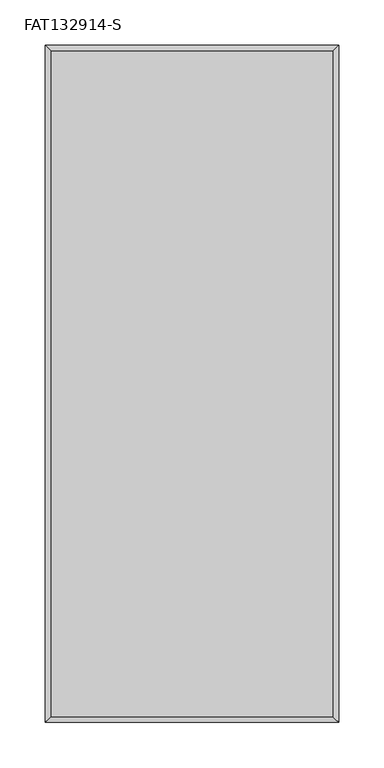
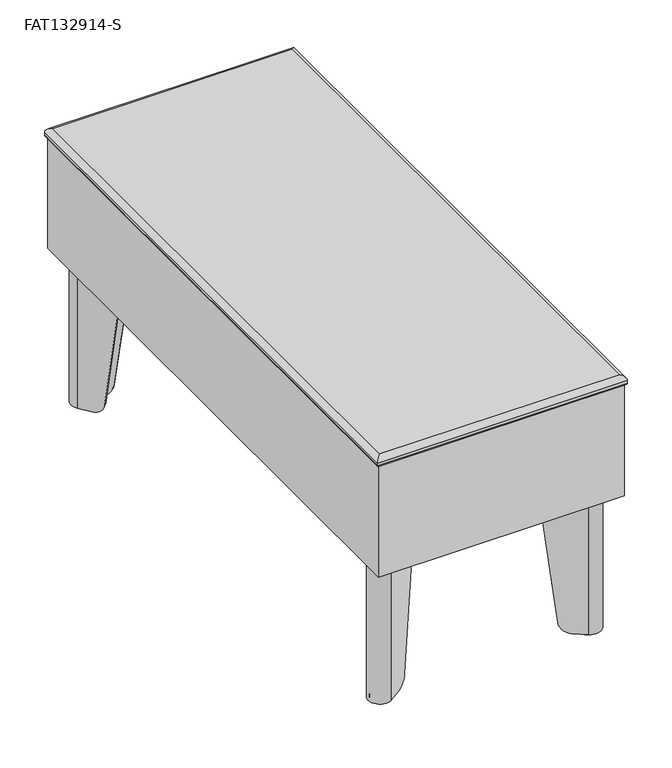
"""IFC4 building model written with IfcOpenShell, lengths in millimetres: furniture geometry, Stance_HC-Flora-Table_Straight : FAT132914-S."""

from ifc_helpers import new_model, si_unit, point, frame, frame_2d, origin, origin_with_axes, place, context, project, spatial, polyline, circle_curve, ellipse_curve, trimmed, segment, composite_curve, outline, extrude, source, transform, mapped, element, save
from ifc_brep_helpers import plane_surface, cylinder_surface, revolved_surface, advanced_brep


def fat132914_s_00388e72(model_context):
    return source(origin(), model_context, "Body", "SolidModel", [
        extrude(outline(composite_curve([segment(polyline([(274.1779251, -48.593371), (287.4828248, -39.2771437)]), True, "CONTINUOUS"), segment(trimmed(circle_curve(frame_2d((294.1333442, -48.7750329)), 11.5947965), [point((287.4828248, -39.2771437))], [point((303.6312333, -55.4255523))], False, "CARTESIAN"), True, "CONTINUOUS"), segment(polyline([(303.6312333, -55.4255523), (294.315006, -68.730452), (274.1779251, -48.593371)]), True, "CONTINUOUS")], self_intersect=False)), frame((0.0, 0.0, 3.175), z_axis=(0.0, 0.0, 1.0), x_axis=(1.0, 0.0, 0.0)), (0.0, 0.0, 1.0), 3.3792927),
        advanced_brep(
        [(274.3401042, -102.8613619, 193.6877233), (306.2642107, -57.26919, 193.6877233), (285.6391871, -36.6441664, 193.6877233), (240.0470178, -68.568271, 193.6877233), (241.8906556, -71.2012484, 193.6877233), (287.4828248, -39.2771437, 193.6877233), (303.6312333, -55.4255523, 193.6877233), (271.7071268, -101.0177242, 193.6877233), (274.3401042, -102.8613619, 189.1419595), (303.6312333, -55.4255523, 3.1876992), (293.5105238, -69.8793673, 3.1876992), (284.3334277, -82.9855678, 17.1280233), (287.4828248, -39.2771437, 3.1876992), (259.9228092, -58.5749494, 17.1280233), (273.0290098, -49.3978533, 3.1876992), (240.0470178, -68.568271, 189.1419334), (285.6391871, -36.6441664, 3.1876992), (270.7211121, -47.0899556, 3.1876992), (257.6149115, -56.2670517, 17.1280233), (306.2642107, -57.26919, 3.1876992), (286.6413254, -85.2934656, 17.1280233), (295.8184215, -72.187265, 3.1876992)],
        [
            (0, 1),
            (1, 2, circle_curve(frame((294.1333442, -48.7750329, 193.6877233), z_axis=(0.0, 0.0, 1.0), x_axis=(-1.0, 0.0, 0.0)), 14.8090724)),
            (2, 3),
            (3, 4),
            (4, 5),
            (5, 6, circle_curve(frame((294.1333442, -48.7750329, 193.6877233), z_axis=(0.0, 0.0, -1.0), x_axis=(-1.0, 0.0, 0.0)), 11.5947965)),
            (6, 7),
            (7, 0),
            (7, 8),
            (8, 0),
            (6, 9),
            (9, 10),
            (10, 11, ellipse_curve(frame((293.5105238, -69.8793673, 19.0626992), z_axis=(-0.8191509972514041, 0.5735779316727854, 0.0), x_axis=(-0.5735779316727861, -0.8191509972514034, 0.0)), 16.1198923, 15.875)),
            (11, 7),
            (5, 12),
            (12, 9, circle_curve(frame((294.1333442, -48.7750329, 3.1876992), z_axis=(0.0, 0.0, -1.0), x_axis=(-1.0, 0.0, 0.0)), 11.5947965)),
            (4, 13),
            (13, 14, ellipse_curve(frame((273.0290098, -49.3978533, 19.0626992), z_axis=(0.5735779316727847, -0.8191509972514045, 0.0), x_axis=(0.8191509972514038, 0.5735779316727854, 0.0)), 16.1198923, 15.875)),
            (14, 12),
            (3, 15),
            (15, 4),
            (2, 16),
            (16, 17),
            (17, 18, ellipse_curve(frame((270.7211121, -47.0899556, 19.0626992), z_axis=(-0.5735779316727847, 0.8191509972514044, 0.0), x_axis=(0.8191509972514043, 0.573577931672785, 0.0)), 16.1198923, 15.875)),
            (18, 15),
            (1, 19),
            (19, 16, circle_curve(frame((294.1333442, -48.7750329, 3.1876992), z_axis=(0.0, 0.0, 1.0), x_axis=(-1.0, 0.0, 0.0)), 14.8090724)),
            (8, 20),
            (20, 21, ellipse_curve(frame((295.8184215, -72.187265, 19.0626992), z_axis=(0.8191509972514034, -0.5735779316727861, 0.0), x_axis=(-0.5735779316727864, -0.8191509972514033, 0.0)), 16.1198923, 15.875)),
            (21, 19),
            (18, 13),
            (11, 20),
            (21, 10),
            (14, 17),
        ],
        [
            plane_surface(frame((271.7071268, -101.0177242, 193.6877233), z_axis=(0.0, 0.0, 1.0000000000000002), x_axis=(-0.8191509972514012, 0.5735779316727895, 0.0))),
            plane_surface(frame((274.3401042, -102.8613619, 193.6877233), z_axis=(-0.5735779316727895, -0.8191509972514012, 0.0), x_axis=(0.0, 0.0, -1.0))),
            plane_surface(frame((271.7071268, -101.0177242, 193.6877233), z_axis=(-0.8191509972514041, 0.5735779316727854, 0.0), x_axis=(0.0, 0.0, -1.0))),
            revolved_surface(polyline([(282.53854770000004, -48.7750329, 3.1876992), (282.53854770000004, -48.7750329, 193.6877233)]), (294.1333442, -48.7750329, 0.0), (0.0, 0.0, -1.0)),
            plane_surface(frame((287.4828248, -39.2771437, 193.6877233), z_axis=(0.5735779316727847, -0.8191509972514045, 0.0), x_axis=(0.0, 0.0, -1.0))),
            plane_surface(frame((241.8906556, -71.2012484, 193.6877233), z_axis=(-0.8191509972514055, -0.5735779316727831, 0.0), x_axis=(0.0, 0.0, -1.0))),
            plane_surface(frame((240.0470178, -68.568271, 193.6877233), z_axis=(-0.5735779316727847, 0.8191509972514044, 0.0), x_axis=(0.0, 0.0, -1.0))),
            cylinder_surface(frame((294.1333442, -48.7750329, 0.0), z_axis=(0.0, 0.0, 1.0), x_axis=(-1.0, 0.0, 0.0)), 14.8090724),
            plane_surface(frame((306.2642107, -57.26919, 193.6877233), z_axis=(0.8191509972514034, -0.5735779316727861, 0.0), x_axis=(0.0, 0.0, -1.0))),
            plane_surface(frame((251.7311084, -50.3832485, 17.1280233), z_axis=(-0.7018361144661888, -0.7018361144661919, -0.12186934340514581), x_axis=(0.7071067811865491, -0.707106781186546, 0.0))),
            plane_surface(frame((284.2214639, -17.8928931, 3.1876992), z_axis=(0.0, 0.0, -1.0), x_axis=(0.707106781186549, -0.707106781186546, 0.0))),
            cylinder_surface(frame((303.6583998, -80.0272433, 19.0626992), z_axis=(0.7071067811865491, -0.707106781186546, 0.0), x_axis=(-0.707106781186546, -0.7071067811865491, 0.0)), 15.875),
        ],
        [
            (0, [[1, 2, 3, 4, 5, 6, 7, 8]]),
            (1, [[9, 10, -8]]),
            (2, [[11, 12, 13, 14, -7]]),
            (3, [[15, 16, -11, -6]]),
            (4, [[17, 18, 19, -15, -5]]),
            (5, [[20, 21, -4]]),
            (6, [[22, 23, 24, 25, -20, -3]]),
            (7, [[26, 27, -22, -2]]),
            (8, [[-10, 28, 29, 30, -26, -1]]),
            (9, [[-17, -21, -25, 31]]),
            (9, [[-28, -9, -14, 32]]),
            (10, [[-23, -27, -30, 33, -12, -16, -19, 34]]),
            (11, [[-13, -33, -29, -32]]),
            (11, [[-24, -34, -18, -31]]),
        ],
    ),
        extrude(outline(composite_curve([segment(trimmed(circle_curve(frame_2d((292.1, -50.8)), 11.1125), [point((303.2125, -50.8))], [point((280.9875, -50.8))], False, "CARTESIAN"), True, "CONTINUOUS"), segment(trimmed(circle_curve(frame_2d((292.1, -50.8)), 11.1125), [point((280.9875, -50.8))], [point((303.2125, -50.8))], False, "CARTESIAN"), True, "CONTINUOUS")], self_intersect=False)), origin_with_axes(), (0.0, 0.0, 1.0), 3.175),
        extrude(outline(composite_curve([segment(trimmed(circle_curve(frame_2d((295.4524523, -47.4559239)), 15.8749964), [point((294.3450687, -31.6195983))], [point((311.288778, -48.5633073))], False, "CARTESIAN"), True, "CONTINUOUS"), segment(polyline([(311.288778, -48.5633073), (304.2918062, -148.6247029), (274.4414324, -178.4750713), (190.4983323, -152.4100523), (164.4332978, -68.4669439), (194.2836699, -38.6165718), (294.3450687, -31.6195983)]), True, "CONTINUOUS")], self_intersect=False)), frame((0.0, 0.0, 193.6877233), z_axis=(0.0, 0.0, 1.0), x_axis=(1.0, 0.0, 0.0)), (0.0, 0.0, 1.0), 4.7751809),
        extrude(outline(composite_curve([segment(polyline([(274.1779251, -713.406629), (294.315006, -693.269548), (303.6312333, -706.5744477)]), True, "CONTINUOUS"), segment(trimmed(circle_curve(frame_2d((294.1333442, -713.2249671)), 11.5947965), [point((303.6312333, -706.5744477))], [point((287.4828248, -722.7228563))], False, "CARTESIAN"), True, "CONTINUOUS"), segment(polyline([(287.4828248, -722.7228563), (274.1779251, -713.406629)]), True, "CONTINUOUS")], self_intersect=False)), frame((0.0, 0.0, 3.175), z_axis=(0.0, 0.0, 1.0), x_axis=(1.0, 0.0, 0.0)), (0.0, 0.0, 1.0), 3.3792927),
        advanced_brep(
        [(274.3401042, -659.1386381, 193.6877233), (271.7071268, -660.9822758, 193.6877233), (303.6312333, -706.5744477, 193.6877233), (287.4828248, -722.7228563, 193.6877233), (241.8906556, -690.7987516, 193.6877233), (240.0470178, -693.431729, 193.6877233), (285.6391871, -725.3558336, 193.6877233), (306.2642107, -704.73081, 193.6877233), (274.3401042, -659.1386381, 189.1419595), (284.3334277, -679.0144322, 17.1280233), (293.5105238, -692.1206327, 3.1876992), (303.6312333, -706.5744477, 3.1876992), (287.4828248, -722.7228563, 3.1876992), (273.0290098, -712.6021467, 3.1876992), (259.9228092, -703.4250506, 17.1280233), (240.0470178, -693.431729, 189.1419334), (257.6149115, -705.7329483, 17.1280233), (270.7211121, -714.9100444, 3.1876992), (285.6391871, -725.3558336, 3.1876992), (306.2642107, -704.73081, 3.1876992), (295.8184215, -689.812735, 3.1876992), (286.6413254, -676.7065344, 17.1280233)],
        [
            (0, 1),
            (1, 2),
            (2, 3, circle_curve(frame((294.1333442, -713.2249671, 193.6877233), z_axis=(0.0, 0.0, -1.0), x_axis=(-1.0, 0.0, 0.0)), 11.5947965)),
            (3, 4),
            (4, 5),
            (5, 6),
            (6, 7, circle_curve(frame((294.1333442, -713.2249671, 193.6877233), z_axis=(0.0, 0.0, 1.0), x_axis=(-1.0, 0.0, 0.0)), 14.8090724)),
            (7, 0),
            (0, 8),
            (8, 1),
            (1, 9),
            (9, 10, ellipse_curve(frame((293.5105238, -692.1206327, 19.0626992), z_axis=(-0.8191509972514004, -0.5735779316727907, 0.0), x_axis=(-0.5735779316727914, 0.8191509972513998, 0.0)), 16.1198923, 15.875)),
            (10, 11),
            (11, 2),
            (11, 12, circle_curve(frame((294.1333442, -713.2249671, 3.1876992), z_axis=(0.0, 0.0, -1.0), x_axis=(-1.0, 0.0, 0.0)), 11.5947965)),
            (12, 3),
            (12, 13),
            (13, 14, ellipse_curve(frame((273.0290098, -712.6021467, 19.0626992), z_axis=(0.5735779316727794, 0.8191509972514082, 0.0), x_axis=(0.8191509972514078, -0.5735779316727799, 0.0)), 16.1198923, 15.875)),
            (14, 4),
            (4, 15),
            (15, 5),
            (15, 16),
            (16, 17, ellipse_curve(frame((270.7211121, -714.9100444, 19.0626992), z_axis=(-0.5735779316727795, -0.8191509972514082, 0.0), x_axis=(0.8191509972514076, -0.5735779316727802, 0.0)), 16.1198923, 15.875)),
            (17, 18),
            (18, 6),
            (18, 19, circle_curve(frame((294.1333442, -713.2249671, 3.1876992), z_axis=(0.0, 0.0, 1.0), x_axis=(-1.0, 0.0, 0.0)), 14.8090724)),
            (19, 7),
            (19, 20),
            (20, 21, ellipse_curve(frame((295.8184215, -689.812735, 19.0626992), z_axis=(0.8191509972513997, 0.5735779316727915, 0.0), x_axis=(-0.573577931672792, 0.8191509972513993, 0.0)), 16.1198923, 15.875)),
            (21, 8),
            (14, 16),
            (21, 9),
            (17, 13),
            (10, 20),
        ],
        [
            plane_surface(frame((271.7071268, -660.9822758, 193.6877233), z_axis=(0.0, 0.0, 0.9999999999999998), x_axis=(-0.8191509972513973, -0.5735779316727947, 0.0))),
            plane_surface(frame((274.3401042, -659.1386381, 193.6877233), z_axis=(-0.5735779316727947, 0.8191509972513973, 0.0), x_axis=(0.0, 0.0, -1.0))),
            plane_surface(frame((271.7071268, -660.9822758, 193.6877233), z_axis=(-0.8191509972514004, -0.5735779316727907, 0.0), x_axis=(0.0, 0.0, -1.0))),
            revolved_surface(polyline([(282.53854770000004, -713.2249671, 3.1876992), (282.53854770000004, -713.2249671, 193.6877233)]), (294.1333442, -713.2249671, 0.0), (0.0, 0.0, -1.0)),
            plane_surface(frame((287.4828248, -722.7228563, 193.6877233), z_axis=(0.5735779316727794, 0.8191509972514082, 0.0), x_axis=(0.0, 0.0, -1.0))),
            plane_surface(frame((241.8906556, -690.7987516, 193.6877233), z_axis=(-0.8191509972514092, 0.5735779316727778, 0.0), x_axis=(0.0, 0.0, -1.0))),
            plane_surface(frame((240.0470178, -693.431729, 193.6877233), z_axis=(-0.5735779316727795, -0.8191509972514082, 0.0), x_axis=(0.0, 0.0, -1.0))),
            cylinder_surface(frame((294.1333442, -713.2249671, 0.0), z_axis=(0.0, 0.0, 1.0), x_axis=(-1.0, 0.0, 0.0)), 14.8090724),
            plane_surface(frame((306.2642107, -704.73081, 193.6877233), z_axis=(0.8191509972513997, 0.5735779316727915, 0.0), x_axis=(0.0, 0.0, -1.0))),
            plane_surface(frame((251.7311084, -711.6167515, 17.1280233), z_axis=(-0.7018361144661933, 0.7018361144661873, -0.12186934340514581), x_axis=(0.7071067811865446, 0.7071067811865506, 0.0))),
            plane_surface(frame((284.2214639, -744.1071069, 3.1876992), z_axis=(0.0, 0.0, -1.0), x_axis=(0.7071067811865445, 0.7071067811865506, 0.0))),
            cylinder_surface(frame((303.6583998, -681.9727567, 19.0626992), z_axis=(0.7071067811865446, 0.7071067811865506, 0.0), x_axis=(-0.7071067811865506, 0.7071067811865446, 0.0)), 15.875),
        ],
        [
            (0, [[1, 2, 3, 4, 5, 6, 7, 8]]),
            (1, [[-1, 9, 10]]),
            (2, [[-2, 11, 12, 13, 14]]),
            (3, [[-3, -14, 15, 16]]),
            (4, [[-4, -16, 17, 18, 19]]),
            (5, [[-5, 20, 21]]),
            (6, [[-6, -21, 22, 23, 24, 25]]),
            (7, [[-7, -25, 26, 27]]),
            (8, [[-8, -27, 28, 29, 30, -9]]),
            (9, [[31, -22, -20, -19]]),
            (9, [[32, -11, -10, -30]]),
            (10, [[33, -17, -15, -13, 34, -28, -26, -24]]),
            (11, [[-31, -18, -33, -23]]),
            (11, [[-32, -29, -34, -12]]),
        ],
    ),
        extrude(outline(composite_curve([segment(trimmed(circle_curve(frame_2d((292.1, -711.2)), 11.1125), [point((303.2125, -711.2))], [point((280.9875, -711.2))], False, "CARTESIAN"), True, "CONTINUOUS"), segment(trimmed(circle_curve(frame_2d((292.1, -711.2)), 11.1125), [point((280.9875, -711.2))], [point((303.2125, -711.2))], False, "CARTESIAN"), True, "CONTINUOUS")], self_intersect=False)), origin_with_axes(), (0.0, 0.0, 1.0), 3.175),
        extrude(outline(composite_curve([segment(polyline([(294.3450687, -730.3804017), (194.2836699, -723.3834282), (164.4332978, -693.5330561), (190.4983323, -609.5899477), (274.4414324, -583.5249287), (304.2918062, -613.3752971), (311.288778, -713.4366927)]), True, "CONTINUOUS"), segment(trimmed(circle_curve(frame_2d((295.4524523, -714.5440761)), 15.8749964), [point((311.288778, -713.4366927))], [point((294.3450687, -730.3804017))], False, "CARTESIAN"), True, "CONTINUOUS")], self_intersect=False)), frame((0.0, 0.0, 193.6877233), z_axis=(0.0, 0.0, 1.0), x_axis=(1.0, 0.0, 0.0)), (0.0, 0.0, 1.0), 4.7751809),
        extrude(outline(composite_curve([segment(polyline([(43.3220749, -713.406629), (30.0171752, -722.7228563)]), True, "CONTINUOUS"), segment(trimmed(circle_curve(frame_2d((23.3666558, -713.2249671)), 11.5947965), [point((30.0171752, -722.7228563))], [point((13.8687667, -706.5744477))], False, "CARTESIAN"), True, "CONTINUOUS"), segment(polyline([(13.8687667, -706.5744477), (23.184994, -693.269548), (43.3220749, -713.406629)]), True, "CONTINUOUS")], self_intersect=False)), frame((0.0, 0.0, 3.175), z_axis=(0.0, 0.0, 1.0), x_axis=(1.0, 0.0, 0.0)), (0.0, 0.0, 1.0), 3.3792927),
        advanced_brep(
        [(43.1598958, -659.1386381, 193.6877233), (11.2357893, -704.73081, 193.6877233), (31.8608129, -725.3558336, 193.6877233), (77.4529822, -693.431729, 193.6877233), (75.6093444, -690.7987516, 193.6877233), (30.0171752, -722.7228563, 193.6877233), (13.8687667, -706.5744477, 193.6877233), (45.7928732, -660.9822758, 193.6877233), (43.1598958, -659.1386381, 189.1419595), (13.8687667, -706.5744477, 3.1876992), (23.9894762, -692.1206327, 3.1876992), (33.1665723, -679.0144322, 17.1280233), (30.0171752, -722.7228563, 3.1876992), (57.5771908, -703.4250506, 17.1280233), (44.4709902, -712.6021467, 3.1876992), (77.4529822, -693.431729, 189.1419334), (31.8608129, -725.3558336, 3.1876992), (46.7788879, -714.9100444, 3.1876992), (59.8850885, -705.7329483, 17.1280233), (11.2357893, -704.73081, 3.1876992), (30.8586746, -676.7065344, 17.1280233), (21.6815785, -689.812735, 3.1876992)],
        [
            (0, 1),
            (1, 2, circle_curve(frame((23.3666558, -713.2249671, 193.6877233), z_axis=(0.0, 0.0, 1.0), x_axis=(1.0, 0.0, 0.0)), 14.8090724)),
            (2, 3),
            (3, 4),
            (4, 5),
            (5, 6, circle_curve(frame((23.3666558, -713.2249671, 193.6877233), z_axis=(0.0, 0.0, -1.0), x_axis=(1.0, 0.0, 0.0)), 11.5947965)),
            (6, 7),
            (7, 0),
            (7, 8),
            (8, 0),
            (6, 9),
            (9, 10),
            (10, 11, ellipse_curve(frame((23.9894762, -692.1206327, 19.0626992), z_axis=(0.8191509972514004, -0.5735779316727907, 0.0), x_axis=(0.5735779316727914, 0.8191509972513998, 0.0)), 16.1198923, 15.875)),
            (11, 7),
            (5, 12),
            (12, 9, circle_curve(frame((23.3666558, -713.2249671, 3.1876992), z_axis=(0.0, 0.0, -1.0), x_axis=(1.0, 0.0, 0.0)), 11.5947965)),
            (4, 13),
            (13, 14, ellipse_curve(frame((44.4709902, -712.6021467, 19.0626992), z_axis=(-0.5735779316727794, 0.8191509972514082, 0.0), x_axis=(-0.8191509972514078, -0.5735779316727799, 0.0)), 16.1198923, 15.875)),
            (14, 12),
            (3, 15),
            (15, 4),
            (2, 16),
            (16, 17),
            (17, 18, ellipse_curve(frame((46.7788879, -714.9100444, 19.0626992), z_axis=(0.5735779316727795, -0.8191509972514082, 0.0), x_axis=(-0.8191509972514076, -0.5735779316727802, 0.0)), 16.1198923, 15.875)),
            (18, 15),
            (1, 19),
            (19, 16, circle_curve(frame((23.3666558, -713.2249671, 3.1876992), z_axis=(0.0, 0.0, 1.0), x_axis=(1.0, 0.0, 0.0)), 14.8090724)),
            (8, 20),
            (20, 21, ellipse_curve(frame((21.6815785, -689.812735, 19.0626992), z_axis=(-0.8191509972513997, 0.5735779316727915, 0.0), x_axis=(0.573577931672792, 0.8191509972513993, 0.0)), 16.1198923, 15.875)),
            (21, 19),
            (18, 13),
            (11, 20),
            (21, 10),
            (14, 17),
        ],
        [
            plane_surface(frame((45.7928732, -660.9822758, 193.6877233), z_axis=(0.0, 0.0, 0.9999999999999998), x_axis=(0.8191509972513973, -0.5735779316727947, 0.0))),
            plane_surface(frame((43.1598958, -659.1386381, 193.6877233), z_axis=(0.5735779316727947, 0.8191509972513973, 0.0), x_axis=(0.0, 0.0, -1.0))),
            plane_surface(frame((45.7928732, -660.9822758, 193.6877233), z_axis=(0.8191509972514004, -0.5735779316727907, 0.0), x_axis=(0.0, 0.0, -1.0))),
            revolved_surface(polyline([(34.9614523, -713.2249671, 3.1876992), (34.9614523, -713.2249671, 193.6877233)]), (23.3666558, -713.2249671, 0.0), (0.0, 0.0, -1.0)),
            plane_surface(frame((30.0171752, -722.7228563, 193.6877233), z_axis=(-0.5735779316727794, 0.8191509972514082, 0.0), x_axis=(0.0, 0.0, -1.0))),
            plane_surface(frame((75.6093444, -690.7987516, 193.6877233), z_axis=(0.8191509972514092, 0.5735779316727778, 0.0), x_axis=(0.0, 0.0, -1.0))),
            plane_surface(frame((77.4529822, -693.431729, 193.6877233), z_axis=(0.5735779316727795, -0.8191509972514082, 0.0), x_axis=(0.0, 0.0, -1.0))),
            cylinder_surface(frame((23.3666558, -713.2249671, 0.0), z_axis=(0.0, 0.0, 1.0), x_axis=(1.0, 0.0, 0.0)), 14.8090724),
            plane_surface(frame((11.2357893, -704.73081, 193.6877233), z_axis=(-0.8191509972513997, 0.5735779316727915, 0.0), x_axis=(0.0, 0.0, -1.0))),
            plane_surface(frame((65.7688916, -711.6167515, 17.1280233), z_axis=(0.7018361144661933, 0.7018361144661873, -0.12186934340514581), x_axis=(-0.7071067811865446, 0.7071067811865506, 0.0))),
            plane_surface(frame((33.2785361, -744.1071069, 3.1876992), z_axis=(0.0, 0.0, -1.0), x_axis=(-0.7071067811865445, 0.7071067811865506, 0.0))),
            cylinder_surface(frame((13.8416002, -681.9727567, 19.0626992), z_axis=(-0.7071067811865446, 0.7071067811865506, 0.0), x_axis=(0.7071067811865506, 0.7071067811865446, 0.0)), 15.875),
        ],
        [
            (0, [[1, 2, 3, 4, 5, 6, 7, 8]]),
            (1, [[9, 10, -8]]),
            (2, [[11, 12, 13, 14, -7]]),
            (3, [[15, 16, -11, -6]]),
            (4, [[17, 18, 19, -15, -5]]),
            (5, [[20, 21, -4]]),
            (6, [[22, 23, 24, 25, -20, -3]]),
            (7, [[26, 27, -22, -2]]),
            (8, [[-10, 28, 29, 30, -26, -1]]),
            (9, [[-17, -21, -25, 31]]),
            (9, [[-28, -9, -14, 32]]),
            (10, [[-23, -27, -30, 33, -12, -16, -19, 34]]),
            (11, [[-13, -33, -29, -32]]),
            (11, [[-24, -34, -18, -31]]),
        ],
    ),
        extrude(outline(composite_curve([segment(trimmed(circle_curve(frame_2d((25.4, -711.2)), 11.1125), [point((14.2875, -711.2))], [point((36.5125, -711.2))], False, "CARTESIAN"), True, "CONTINUOUS"), segment(trimmed(circle_curve(frame_2d((25.4, -711.2)), 11.1125), [point((36.5125, -711.2))], [point((14.2875, -711.2))], False, "CARTESIAN"), True, "CONTINUOUS")], self_intersect=False)), origin_with_axes(), (0.0, 0.0, 1.0), 3.175),
        extrude(outline(composite_curve([segment(trimmed(circle_curve(frame_2d((22.0475477, -714.5440761)), 15.8749964), [point((23.1549313, -730.3804017))], [point((6.211222, -713.4366927))], False, "CARTESIAN"), True, "CONTINUOUS"), segment(polyline([(6.211222, -713.4366927), (13.2081938, -613.3752971), (43.0585676, -583.5249287), (127.0016677, -609.5899477), (153.0667022, -693.5330561), (123.2163301, -723.3834282), (23.1549313, -730.3804017)]), True, "CONTINUOUS")], self_intersect=False)), frame((0.0, 0.0, 193.6877233), z_axis=(0.0, 0.0, 1.0), x_axis=(1.0, 0.0, 0.0)), (0.0, 0.0, 1.0), 4.7751809),
        extrude(outline(composite_curve([segment(polyline([(43.3220749, -48.593371), (23.184994, -68.730452), (13.8687667, -55.4255523)]), True, "CONTINUOUS"), segment(trimmed(circle_curve(frame_2d((23.3666558, -48.7750329)), 11.5947965), [point((13.8687667, -55.4255523))], [point((30.0171752, -39.2771437))], False, "CARTESIAN"), True, "CONTINUOUS"), segment(polyline([(30.0171752, -39.2771437), (43.3220749, -48.593371)]), True, "CONTINUOUS")], self_intersect=False)), frame((0.0, 0.0, 3.175), z_axis=(0.0, 0.0, 1.0), x_axis=(1.0, 0.0, 0.0)), (0.0, 0.0, 1.0), 3.3792927),
        advanced_brep(
        [(43.1598958, -102.8613619, 193.6877233), (45.7928732, -101.0177242, 193.6877233), (13.8687667, -55.4255523, 193.6877233), (30.0171752, -39.2771437, 193.6877233), (75.6093444, -71.2012484, 193.6877233), (77.4529822, -68.568271, 193.6877233), (31.8608129, -36.6441664, 193.6877233), (11.2357893, -57.26919, 193.6877233), (43.1598958, -102.8613619, 189.1419595), (33.1665723, -82.9855678, 17.1280233), (23.9894762, -69.8793673, 3.1876992), (13.8687667, -55.4255523, 3.1876992), (30.0171752, -39.2771437, 3.1876992), (44.4709902, -49.3978533, 3.1876992), (57.5771908, -58.5749494, 17.1280233), (77.4529822, -68.568271, 189.1419334), (59.8850885, -56.2670517, 17.1280233), (46.7788879, -47.0899556, 3.1876992), (31.8608129, -36.6441664, 3.1876992), (11.2357893, -57.26919, 3.1876992), (21.6815785, -72.187265, 3.1876992), (30.8586746, -85.2934656, 17.1280233)],
        [
            (0, 1),
            (1, 2),
            (2, 3, circle_curve(frame((23.3666558, -48.7750329, 193.6877233), z_axis=(0.0, 0.0, -1.0), x_axis=(1.0, 0.0, 0.0)), 11.5947965)),
            (3, 4),
            (4, 5),
            (5, 6),
            (6, 7, circle_curve(frame((23.3666558, -48.7750329, 193.6877233), z_axis=(0.0, 0.0, 1.0), x_axis=(1.0, 0.0, 0.0)), 14.8090724)),
            (7, 0),
            (0, 8),
            (8, 1),
            (1, 9),
            (9, 10, ellipse_curve(frame((23.9894762, -69.8793673, 19.0626992), z_axis=(0.8191509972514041, 0.5735779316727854, 0.0), x_axis=(0.5735779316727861, -0.8191509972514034, 0.0)), 16.1198923, 15.875)),
            (10, 11),
            (11, 2),
            (11, 12, circle_curve(frame((23.3666558, -48.7750329, 3.1876992), z_axis=(0.0, 0.0, -1.0), x_axis=(1.0, 0.0, 0.0)), 11.5947965)),
            (12, 3),
            (12, 13),
            (13, 14, ellipse_curve(frame((44.4709902, -49.3978533, 19.0626992), z_axis=(-0.5735779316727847, -0.8191509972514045, 0.0), x_axis=(-0.8191509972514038, 0.5735779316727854, 0.0)), 16.1198923, 15.875)),
            (14, 4),
            (4, 15),
            (15, 5),
            (15, 16),
            (16, 17, ellipse_curve(frame((46.7788879, -47.0899556, 19.0626992), z_axis=(0.5735779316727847, 0.8191509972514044, 0.0), x_axis=(-0.8191509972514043, 0.573577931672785, 0.0)), 16.1198923, 15.875)),
            (17, 18),
            (18, 6),
            (18, 19, circle_curve(frame((23.3666558, -48.7750329, 3.1876992), z_axis=(0.0, 0.0, 1.0), x_axis=(1.0, 0.0, 0.0)), 14.8090724)),
            (19, 7),
            (19, 20),
            (20, 21, ellipse_curve(frame((21.6815785, -72.187265, 19.0626992), z_axis=(-0.8191509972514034, -0.5735779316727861, 0.0), x_axis=(0.5735779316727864, -0.8191509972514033, 0.0)), 16.1198923, 15.875)),
            (21, 8),
            (14, 16),
            (21, 9),
            (17, 13),
            (10, 20),
        ],
        [
            plane_surface(frame((45.7928732, -101.0177242, 193.6877233), z_axis=(0.0, 0.0, 1.0000000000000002), x_axis=(0.8191509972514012, 0.5735779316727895, 0.0))),
            plane_surface(frame((43.1598958, -102.8613619, 193.6877233), z_axis=(0.5735779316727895, -0.8191509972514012, 0.0), x_axis=(0.0, 0.0, -1.0))),
            plane_surface(frame((45.7928732, -101.0177242, 193.6877233), z_axis=(0.8191509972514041, 0.5735779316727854, 0.0), x_axis=(0.0, 0.0, -1.0))),
            revolved_surface(polyline([(34.9614523, -48.7750329, 3.1876992), (34.9614523, -48.7750329, 193.6877233)]), (23.3666558, -48.7750329, 0.0), (0.0, 0.0, -1.0)),
            plane_surface(frame((30.0171752, -39.2771437, 193.6877233), z_axis=(-0.5735779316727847, -0.8191509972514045, 0.0), x_axis=(0.0, 0.0, -1.0))),
            plane_surface(frame((75.6093444, -71.2012484, 193.6877233), z_axis=(0.8191509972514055, -0.5735779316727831, 0.0), x_axis=(0.0, 0.0, -1.0))),
            plane_surface(frame((77.4529822, -68.568271, 193.6877233), z_axis=(0.5735779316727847, 0.8191509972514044, 0.0), x_axis=(0.0, 0.0, -1.0))),
            cylinder_surface(frame((23.3666558, -48.7750329, 0.0), z_axis=(0.0, 0.0, 1.0), x_axis=(1.0, 0.0, 0.0)), 14.8090724),
            plane_surface(frame((11.2357893, -57.26919, 193.6877233), z_axis=(-0.8191509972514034, -0.5735779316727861, 0.0), x_axis=(0.0, 0.0, -1.0))),
            plane_surface(frame((65.7688916, -50.3832485, 17.1280233), z_axis=(0.7018361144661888, -0.7018361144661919, -0.12186934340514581), x_axis=(-0.7071067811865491, -0.707106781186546, 0.0))),
            plane_surface(frame((33.2785361, -17.8928931, 3.1876992), z_axis=(0.0, 0.0, -1.0), x_axis=(-0.707106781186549, -0.707106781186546, 0.0))),
            cylinder_surface(frame((13.8416002, -80.0272433, 19.0626992), z_axis=(-0.7071067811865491, -0.707106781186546, 0.0), x_axis=(0.707106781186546, -0.7071067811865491, 0.0)), 15.875),
        ],
        [
            (0, [[1, 2, 3, 4, 5, 6, 7, 8]]),
            (1, [[-1, 9, 10]]),
            (2, [[-2, 11, 12, 13, 14]]),
            (3, [[-3, -14, 15, 16]]),
            (4, [[-4, -16, 17, 18, 19]]),
            (5, [[-5, 20, 21]]),
            (6, [[-6, -21, 22, 23, 24, 25]]),
            (7, [[-7, -25, 26, 27]]),
            (8, [[-8, -27, 28, 29, 30, -9]]),
            (9, [[31, -22, -20, -19]]),
            (9, [[32, -11, -10, -30]]),
            (10, [[33, -17, -15, -13, 34, -28, -26, -24]]),
            (11, [[-31, -18, -33, -23]]),
            (11, [[-32, -29, -34, -12]]),
        ],
    ),
        extrude(outline(composite_curve([segment(trimmed(circle_curve(frame_2d((25.4, -50.8)), 11.1125), [point((14.2875, -50.8))], [point((36.5125, -50.8))], False, "CARTESIAN"), True, "CONTINUOUS"), segment(trimmed(circle_curve(frame_2d((25.4, -50.8)), 11.1125), [point((36.5125, -50.8))], [point((14.2875, -50.8))], False, "CARTESIAN"), True, "CONTINUOUS")], self_intersect=False)), origin_with_axes(), (0.0, 0.0, 1.0), 3.175),
        extrude(outline(composite_curve([segment(polyline([(23.1549313, -31.6195983), (123.2163301, -38.6165718), (153.0667022, -68.4669439), (127.0016677, -152.4100523), (43.0585676, -178.4750713), (13.2081938, -148.6247029), (6.211222, -48.5633073)]), True, "CONTINUOUS"), segment(trimmed(circle_curve(frame_2d((22.0475477, -47.4559239)), 15.8749964), [point((6.211222, -48.5633073))], [point((23.1549313, -31.6195983))], False, "CARTESIAN"), True, "CONTINUOUS")], self_intersect=False)), frame((0.0, 0.0, 193.6877233), z_axis=(0.0, 0.0, 1.0), x_axis=(1.0, 0.0, 0.0)), (0.0, 0.0, 1.0), 4.7751809),
        advanced_brep(
        [(313.5376045, -746.9251045, 361.2210174), (313.5376045, -15.0748955, 361.2210174), (3.9623955, -15.0748955, 361.2210174), (3.9623955, -746.9251045, 361.2210174), (318.087372, -10.525128, 349.249991), (318.087372, -751.474872, 349.249991), (-0.587372, -751.474872, 349.249991), (-0.587372, -10.525128, 349.249991), (319.8876045, -8.7248955, 354.888882), (319.8876045, -753.2751045, 354.888882), (319.8876045, -753.2751045, 350.9190376), (319.8876045, -8.7248955, 350.9190376), (-2.3876045, -753.2751045, 354.888882), (-2.3876045, -753.2751045, 350.9190376), (-2.3876045, -8.7248955, 354.888882), (-2.3876045, -8.7248955, 350.9190376)],
        [
            (0, 1),
            (1, 2),
            (2, 3),
            (3, 0),
            (4, 5),
            (5, 6),
            (6, 7),
            (7, 4),
            (8, 1, ellipse_curve(frame((313.5376045, -15.0748955, 354.8709922), z_axis=(0.7071067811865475, -0.7071067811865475, 0.0), x_axis=(0.7071067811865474, 0.7071067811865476, 0.0)), 8.9802918, 6.3500252)),
            (0, 9, ellipse_curve(frame((313.5376045, -746.9251045, 354.8709922), z_axis=(0.7071067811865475, 0.7071067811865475, 0.0), x_axis=(-0.7071067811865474, 0.7071067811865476, 0.0)), 8.9802918, 6.3500252)),
            (9, 8),
            (9, 10),
            (10, 11),
            (11, 8),
            (10, 5, ellipse_curve(frame((318.2137781, -751.6012781, 350.9190376), z_axis=(0.7071067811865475, 0.7071067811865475, 0.0), x_axis=(-0.7071067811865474, 0.7071067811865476, 0.0)), 2.3671481, 1.6738265)),
            (4, 11, ellipse_curve(frame((318.2137781, -10.3987219, 350.9190376), z_axis=(0.7071067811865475, -0.7071067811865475, 0.0), x_axis=(0.7071067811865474, 0.7071067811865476, 0.0)), 2.3671481, 1.6738265)),
            (3, 12, ellipse_curve(frame((3.9623955, -746.9251045, 354.8709922), z_axis=(0.7071067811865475, -0.7071067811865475, 0.0), x_axis=(0.7071067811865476, 0.7071067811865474, 0.0)), 8.9802918, 6.3500252)),
            (12, 9),
            (12, 13),
            (13, 10),
            (13, 6, ellipse_curve(frame((-0.7137781, -751.6012781, 350.9190376), z_axis=(0.7071067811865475, -0.7071067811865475, 0.0), x_axis=(0.7071067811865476, 0.7071067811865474, 0.0)), 2.3671481, 1.6738265)),
            (2, 14, ellipse_curve(frame((3.9623955, -15.0748955, 354.8709922), z_axis=(-0.7071067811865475, -0.7071067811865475, 0.0), x_axis=(0.7071067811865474, -0.7071067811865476, 0.0)), 8.9802918, 6.3500252)),
            (14, 12),
            (14, 15),
            (15, 13),
            (15, 7, ellipse_curve(frame((-0.7137781, -10.3987219, 350.9190376), z_axis=(-0.7071067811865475, -0.7071067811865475, 0.0), x_axis=(0.7071067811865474, -0.7071067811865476, 0.0)), 2.3671481, 1.6738265)),
            (8, 14),
            (11, 15),
        ],
        [
            plane_surface(frame((3.9623955, -15.0748955, 361.2210174), z_axis=(0.0, 0.0, 1.0), x_axis=(0.0, -1.0, 0.0))),
            plane_surface(frame((3.9623955, -15.0748955, 349.249991), z_axis=(0.0, 0.0, -1.0), x_axis=(0.0, 1.0, 0.0))),
            cylinder_surface(frame((313.5376045, -11.1125, 354.8709922), z_axis=(0.0, 1.0, 0.0), x_axis=(1.0, 0.0, 0.0)), 6.3500252),
            plane_surface(frame((319.8876045, -8.7248955, 354.888882), z_axis=(1.0, 0.0, 0.0), x_axis=(0.0, -1.0, 0.0))),
            cylinder_surface(frame((318.2137781, -11.1125, 350.9190376), z_axis=(0.0, 1.0, 0.0), x_axis=(1.0, 0.0, 0.0)), 1.6738265),
            cylinder_surface(frame((317.5, -746.9251045, 354.8709922), z_axis=(1.0, 0.0, 0.0), x_axis=(0.0, -1.0, 0.0)), 6.3500252),
            plane_surface(frame((319.8876045, -753.2751045, 354.888882), z_axis=(0.0, -1.0, 0.0), x_axis=(-1.0, 0.0, 0.0))),
            cylinder_surface(frame((317.5, -751.6012781, 350.9190376), z_axis=(1.0, 0.0, 0.0), x_axis=(0.0, -1.0, 0.0)), 1.6738265),
            cylinder_surface(frame((3.9623955, -750.8875, 354.8709922), z_axis=(0.0, -1.0, 0.0), x_axis=(-1.0, 0.0, 0.0)), 6.3500252),
            plane_surface(frame((-2.3876045, -753.2751045, 354.888882), z_axis=(-1.0, 0.0, 0.0), x_axis=(0.0, 1.0, 0.0))),
            cylinder_surface(frame((-0.7137781, -750.8875, 350.9190376), z_axis=(0.0, -1.0, 0.0), x_axis=(-1.0, 0.0, 0.0)), 1.6738265),
            cylinder_surface(frame((0.0, -15.0748955, 354.8709922), z_axis=(-1.0, 0.0, 0.0), x_axis=(0.0, 1.0, 0.0)), 6.3500252),
            plane_surface(frame((-2.3876045, -8.7248955, 354.888882), z_axis=(0.0, 1.0, 0.0), x_axis=(1.0, 0.0, 0.0))),
            cylinder_surface(frame((0.0, -10.3987219, 350.9190376), z_axis=(-1.0, 0.0, 0.0), x_axis=(0.0, 1.0, 0.0)), 1.6738265),
        ],
        [
            (0, [[1, 2, 3, 4]]),
            (1, [[5, 6, 7, 8]]),
            (2, [[9, -1, 10, 11]]),
            (3, [[-11, 12, 13, 14]]),
            (4, [[-13, 15, -5, 16]]),
            (5, [[-10, -4, 17, 18]]),
            (6, [[-12, -18, 19, 20]]),
            (7, [[-15, -20, 21, -6]]),
            (8, [[-17, -3, 22, 23]]),
            (9, [[-19, -23, 24, 25]]),
            (10, [[-21, -25, 26, -7]]),
            (11, [[-9, 27, -22, -2]]),
            (12, [[-14, 28, -24, -27]]),
            (13, [[-16, -8, -26, -28]]),
        ],
    ),
        extrude(outline(polyline([(317.5, -11.1125), (317.5, -750.8875), (0.0, -750.8875), (0.0, -11.1125), (317.5, -11.1125)])), frame((0.0, 0.0, 196.85), z_axis=(0.0, 0.0, 1.0), x_axis=(1.0, 0.0, 0.0)), (0.0, 0.0, 1.0), 152.399991),
    ])


if __name__ == "__main__":
    model = new_model("IFC4")
    model_context = context("Model", 3, world=origin())
    ifc_project = project(units=[si_unit("LENGTHUNIT", "METRE", prefix="MILLI")], contexts=[model_context])
    site = spatial("IfcSite", under=ifc_project)
    building = spatial("IfcBuilding", under=site)
    placement = place(None, origin())
    fat132914_s_shape = fat132914_s_00388e72(model_context)
    element("IfcFurniture", 1, ObjectType="Stance_HC-Flora-Table_Straight : FAT132914-S", at=placement, inside=building, context=model_context, shape_type="MappedRepresentation", body=[
        mapped(fat132914_s_shape, transform((0.0, 0.0, 0.0), x_axis=(1.0, 0.0, 0.0), y_axis=(0.0, 1.0, 0.0), z_axis=(0.0, 0.0, 1.0))),
    ])
    save(model, "model.ifc")
